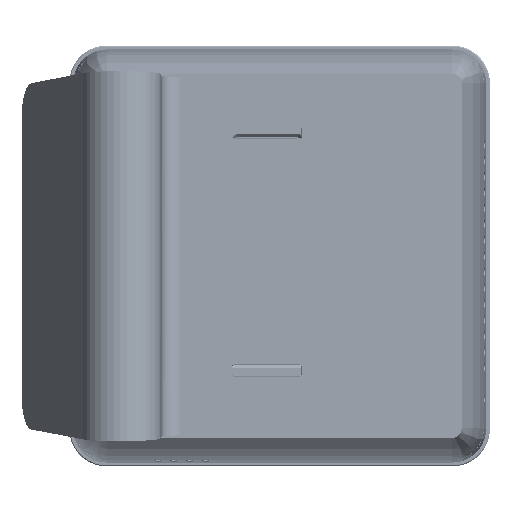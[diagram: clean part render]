
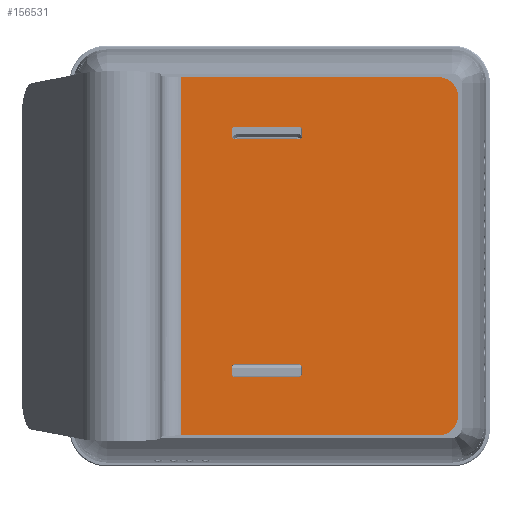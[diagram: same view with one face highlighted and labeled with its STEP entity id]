
A CAD part, top view. The second image highlights one B-rep face of the part: STEP entity #156531.
In plain terms, the highlighted planar face has unit normal (0, 0, 1) as drawn and (-1, 0, 0) by its records, which use the part's own axes.
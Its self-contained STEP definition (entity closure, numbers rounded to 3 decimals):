
#1473=ELLIPSE('',#167465,4.02,4.);
#1475=ELLIPSE('',#167468,4.02,4.);
#6131=FACE_BOUND('',#24463,.T.);
#6132=FACE_BOUND('',#24464,.T.);
#8669=PLANE('',#167486);
#15764=FACE_OUTER_BOUND('',#24462,.T.);
#24462=EDGE_LOOP('',(#121727,#121728,#121729,#121730,#121731,#121732));
#24463=EDGE_LOOP('',(#121733,#121734,#121735,#121736,#121737,#121738,#121739,
#121740));
#24464=EDGE_LOOP('',(#121741,#121742,#121743,#121744,#121745,#121746,#121747,
#121748));
#35262=LINE('',#249340,#52281);
#35266=LINE('',#249352,#52285);
#35270=LINE('',#249364,#52289);
#35277=LINE('',#249381,#52296);
#35282=LINE('',#249395,#52301);
#35287=LINE('',#249408,#52306);
#35292=LINE('',#249419,#52311);
#35296=LINE('',#249431,#52315);
#35689=LINE('',#252037,#52708);
#35699=LINE('',#252061,#52718);
#35705=LINE('',#252083,#52724);
#35721=LINE('',#252314,#52740);
#52281=VECTOR('',#187641,10.);
#52285=VECTOR('',#187653,10.);
#52289=VECTOR('',#187665,10.);
#52296=VECTOR('',#187680,10.);
#52301=VECTOR('',#187695,10.);
#52306=VECTOR('',#187710,10.);
#52311=VECTOR('',#187717,10.);
#52315=VECTOR('',#187729,10.);
#52708=VECTOR('',#188492,10.);
#52718=VECTOR('',#188514,10.);
#52724=VECTOR('',#188538,10.);
#52740=VECTOR('',#188588,10.);
#66721=CIRCLE('',#167245,0.5);
#66723=CIRCLE('',#167249,0.5);
#66725=CIRCLE('',#167253,0.5);
#66727=CIRCLE('',#167257,0.5);
#66729=CIRCLE('',#167262,0.5);
#66731=CIRCLE('',#167268,0.5);
#66733=CIRCLE('',#167272,0.5);
#66735=CIRCLE('',#167275,0.5);
#72630=VERTEX_POINT('',#249337);
#72631=VERTEX_POINT('',#249339);
#72633=VERTEX_POINT('',#249345);
#72635=VERTEX_POINT('',#249351);
#72637=VERTEX_POINT('',#249357);
#72639=VERTEX_POINT('',#249363);
#72641=VERTEX_POINT('',#249369);
#72645=VERTEX_POINT('',#249380);
#72648=VERTEX_POINT('',#249392);
#72649=VERTEX_POINT('',#249394);
#72651=VERTEX_POINT('',#249400);
#72652=VERTEX_POINT('',#249407);
#72656=VERTEX_POINT('',#249416);
#72657=VERTEX_POINT('',#249418);
#72659=VERTEX_POINT('',#249424);
#72661=VERTEX_POINT('',#249430);
#73074=VERTEX_POINT('',#252034);
#73075=VERTEX_POINT('',#252036);
#73082=VERTEX_POINT('',#252058);
#73083=VERTEX_POINT('',#252060);
#73088=VERTEX_POINT('',#252072);
#73090=VERTEX_POINT('',#252078);
#90265=EDGE_CURVE('',#72631,#72630,#35262,.T.);
#90268=EDGE_CURVE('',#72633,#72631,#66721,.T.);
#90271=EDGE_CURVE('',#72635,#72633,#35266,.T.);
#90274=EDGE_CURVE('',#72637,#72635,#66723,.T.);
#90277=EDGE_CURVE('',#72639,#72637,#35270,.T.);
#90280=EDGE_CURVE('',#72641,#72639,#66725,.T.);
#90286=EDGE_CURVE('',#72645,#72641,#35277,.T.);
#90289=EDGE_CURVE('',#72630,#72645,#66727,.T.);
#90293=EDGE_CURVE('',#72649,#72648,#35282,.T.);
#90296=EDGE_CURVE('',#72651,#72649,#66729,.T.);
#90300=EDGE_CURVE('',#72652,#72651,#35287,.T.);
#90305=EDGE_CURVE('',#72657,#72656,#35292,.T.);
#90308=EDGE_CURVE('',#72659,#72657,#66731,.T.);
#90311=EDGE_CURVE('',#72661,#72659,#35296,.T.);
#90314=EDGE_CURVE('',#72648,#72661,#66733,.T.);
#90316=EDGE_CURVE('',#72656,#72652,#66735,.T.);
#90930=EDGE_CURVE('',#73075,#73074,#35689,.T.);
#90942=EDGE_CURVE('',#73083,#73082,#35699,.T.);
#90948=EDGE_CURVE('',#73075,#73088,#1473,.T.);
#90952=EDGE_CURVE('',#73090,#73082,#1475,.T.);
#90954=EDGE_CURVE('',#73088,#73090,#35705,.T.);
#90978=EDGE_CURVE('',#73083,#73074,#35721,.T.);
#121727=ORIENTED_EDGE('',*,*,#90948,.F.);
#121728=ORIENTED_EDGE('',*,*,#90930,.T.);
#121729=ORIENTED_EDGE('',*,*,#90978,.F.);
#121730=ORIENTED_EDGE('',*,*,#90942,.T.);
#121731=ORIENTED_EDGE('',*,*,#90952,.F.);
#121732=ORIENTED_EDGE('',*,*,#90954,.F.);
#121733=ORIENTED_EDGE('',*,*,#90277,.T.);
#121734=ORIENTED_EDGE('',*,*,#90274,.T.);
#121735=ORIENTED_EDGE('',*,*,#90271,.T.);
#121736=ORIENTED_EDGE('',*,*,#90268,.T.);
#121737=ORIENTED_EDGE('',*,*,#90265,.T.);
#121738=ORIENTED_EDGE('',*,*,#90289,.T.);
#121739=ORIENTED_EDGE('',*,*,#90286,.T.);
#121740=ORIENTED_EDGE('',*,*,#90280,.T.);
#121741=ORIENTED_EDGE('',*,*,#90305,.T.);
#121742=ORIENTED_EDGE('',*,*,#90316,.T.);
#121743=ORIENTED_EDGE('',*,*,#90300,.T.);
#121744=ORIENTED_EDGE('',*,*,#90296,.T.);
#121745=ORIENTED_EDGE('',*,*,#90293,.T.);
#121746=ORIENTED_EDGE('',*,*,#90314,.T.);
#121747=ORIENTED_EDGE('',*,*,#90311,.T.);
#121748=ORIENTED_EDGE('',*,*,#90308,.T.);
#156531=ADVANCED_FACE('',(#15764,#6131,#6132),#8669,.T.);
#167245=AXIS2_PLACEMENT_3D('',#249346,#187647,#187648);
#167249=AXIS2_PLACEMENT_3D('',#249358,#187659,#187660);
#167253=AXIS2_PLACEMENT_3D('',#249370,#187671,#187672);
#167257=AXIS2_PLACEMENT_3D('',#249385,#187686,#187687);
#167262=AXIS2_PLACEMENT_3D('',#249401,#187701,#187702);
#167268=AXIS2_PLACEMENT_3D('',#249425,#187723,#187724);
#167272=AXIS2_PLACEMENT_3D('',#249435,#187735,#187736);
#167275=AXIS2_PLACEMENT_3D('',#249438,#187741,#187742);
#167465=AXIS2_PLACEMENT_3D('',#252073,#188525,#188526);
#167468=AXIS2_PLACEMENT_3D('',#252080,#188533,#188534);
#167486=AXIS2_PLACEMENT_3D('',#252313,#188586,#188587);
#187641=DIRECTION('',(0.,0.,1.));
#187647=DIRECTION('center_axis',(1.,0.,0.));
#187648=DIRECTION('ref_axis',(0.,-1.,0.));
#187653=DIRECTION('',(0.,1.,0.));
#187659=DIRECTION('center_axis',(1.,0.,0.));
#187660=DIRECTION('ref_axis',(0.,0.,1.));
#187665=DIRECTION('',(0.,0.,-1.));
#187671=DIRECTION('center_axis',(1.,0.,0.));
#187672=DIRECTION('ref_axis',(0.,1.,0.));
#187680=DIRECTION('',(0.,-1.,0.));
#187686=DIRECTION('center_axis',(1.,0.,0.));
#187687=DIRECTION('ref_axis',(0.,0.,-1.));
#187695=DIRECTION('',(0.,0.,1.));
#187701=DIRECTION('center_axis',(1.,0.,0.));
#187702=DIRECTION('ref_axis',(0.,-1.,0.));
#187710=DIRECTION('',(0.,1.,0.));
#187717=DIRECTION('',(0.,0.,-1.));
#187723=DIRECTION('center_axis',(1.,0.,0.));
#187724=DIRECTION('ref_axis',(0.,1.,0.));
#187729=DIRECTION('',(0.,-1.,0.));
#187735=DIRECTION('center_axis',(1.,0.,0.));
#187736=DIRECTION('ref_axis',(0.,0.,-1.));
#187741=DIRECTION('center_axis',(1.,0.,0.));
#187742=DIRECTION('ref_axis',(0.,0.,1.));
#188492=DIRECTION('',(0.,-1.,0.));
#188514=DIRECTION('',(0.,1.,0.));
#188525=DIRECTION('center_axis',(1.,0.,0.));
#188526=DIRECTION('ref_axis',(0.,0.707,-0.707));
#188533=DIRECTION('center_axis',(1.,0.,0.));
#188534=DIRECTION('ref_axis',(0.,0.707,0.707));
#188538=DIRECTION('',(0.,0.,1.));
#188586=DIRECTION('center_axis',(-1.,0.,0.));
#188587=DIRECTION('ref_axis',(0.,0.,1.));
#188588=DIRECTION('',(0.,0.,-1.));
#249337=CARTESIAN_POINT('',(-23.049,54.329,11.941));
#249339=CARTESIAN_POINT('',(-23.049,54.329,10.458));
#249340=CARTESIAN_POINT('',(-23.049,54.329,5.971));
#249345=CARTESIAN_POINT('',(-23.049,53.829,9.958));
#249346=CARTESIAN_POINT('Origin',(-23.049,53.829,10.458));
#249351=CARTESIAN_POINT('',(-23.049,40.796,9.958));
#249352=CARTESIAN_POINT('',(-23.049,40.084,9.958));
#249357=CARTESIAN_POINT('',(-23.049,40.296,10.458));
#249358=CARTESIAN_POINT('Origin',(-23.049,40.796,10.458));
#249363=CARTESIAN_POINT('',(-23.049,40.296,11.941));
#249364=CARTESIAN_POINT('',(-23.049,40.296,5.229));
#249369=CARTESIAN_POINT('',(-23.049,40.796,12.441));
#249370=CARTESIAN_POINT('Origin',(-23.049,40.796,11.941));
#249380=CARTESIAN_POINT('',(-23.049,53.829,12.441));
#249381=CARTESIAN_POINT('',(-23.049,33.568,12.441));
#249385=CARTESIAN_POINT('Origin',(-23.049,53.829,11.941));
#249392=CARTESIAN_POINT('',(-23.049,54.329,59.709));
#249394=CARTESIAN_POINT('',(-23.049,54.329,58.226));
#249395=CARTESIAN_POINT('',(-23.049,54.329,29.855));
#249400=CARTESIAN_POINT('',(-23.049,53.829,57.726));
#249401=CARTESIAN_POINT('Origin',(-23.049,53.829,58.226));
#249407=CARTESIAN_POINT('',(-23.049,40.796,57.726));
#249408=CARTESIAN_POINT('',(-23.049,40.084,57.726));
#249416=CARTESIAN_POINT('',(-23.049,40.296,58.226));
#249418=CARTESIAN_POINT('',(-23.049,40.296,59.709));
#249419=CARTESIAN_POINT('',(-23.049,40.296,29.113));
#249424=CARTESIAN_POINT('',(-23.049,40.796,60.209));
#249425=CARTESIAN_POINT('Origin',(-23.049,40.796,59.709));
#249430=CARTESIAN_POINT('',(-23.049,53.829,60.209));
#249431=CARTESIAN_POINT('',(-23.049,33.568,60.209));
#249435=CARTESIAN_POINT('Origin',(-23.049,53.829,59.709));
#249438=CARTESIAN_POINT('Origin',(-23.049,40.796,58.226));
#252034=CARTESIAN_POINT('',(-23.049,30.169,0.));
#252036=CARTESIAN_POINT('',(-23.049,81.775,0.));
#252037=CARTESIAN_POINT('',(-23.049,85.765,0.));
#252058=CARTESIAN_POINT('',(-23.049,81.775,72.));
#252060=CARTESIAN_POINT('',(-23.049,30.169,72.));
#252061=CARTESIAN_POINT('',(-23.049,85.765,72.));
#252072=CARTESIAN_POINT('',(-23.049,85.765,3.99));
#252073=CARTESIAN_POINT('Origin',(-23.049,81.755,4.01));
#252078=CARTESIAN_POINT('',(-23.049,85.765,68.01));
#252080=CARTESIAN_POINT('Origin',(-23.049,81.755,67.99));
#252083=CARTESIAN_POINT('',(-23.049,85.765,0.));
#252313=CARTESIAN_POINT('Origin',(-23.049,26.34,0.));
#252314=CARTESIAN_POINT('',(-23.049,30.169,0.));
